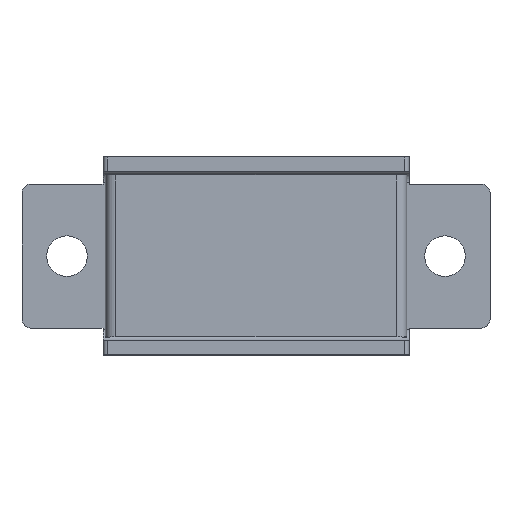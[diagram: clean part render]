
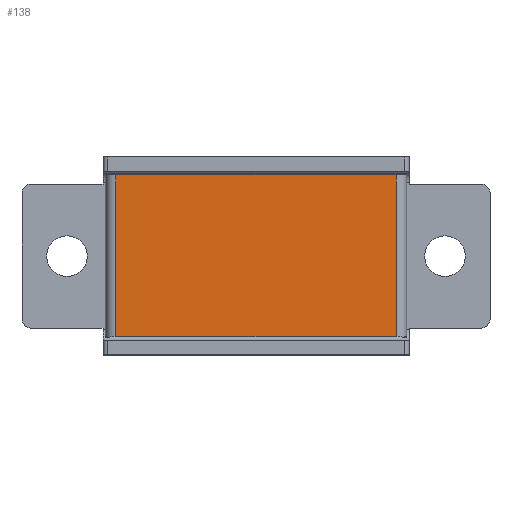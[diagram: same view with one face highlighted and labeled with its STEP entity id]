
A CAD part, top view. The second image highlights one B-rep face of the part: STEP entity #138.
In plain terms, the highlighted planar face has unit normal (0, 0, 1).
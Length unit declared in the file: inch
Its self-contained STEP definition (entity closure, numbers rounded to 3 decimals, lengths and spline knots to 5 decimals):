
#70 = EDGE_LOOP ( 'NONE', ( #1429, #403, #1967, #133 ) ) ;
#123 = CARTESIAN_POINT ( 'NONE',  ( -0.97563, 0.5625, 0.405 ) ) ;
#133 = ORIENTED_EDGE ( 'NONE', *, *, #1600, .T. ) ;
#138 = ADVANCED_FACE ( 'NONE', ( #1488 ), #1711, .T. ) ;
#189 = LINE ( 'NONE', #1174, #985 ) ;
#218 = DIRECTION ( 'NONE',  ( 0., 0., 1. ) ) ;
#243 = CARTESIAN_POINT ( 'NONE',  ( 0.97563, 0.5625, 0.405 ) ) ;
#340 = EDGE_CURVE ( 'NONE', #575, #1893, #1991, .T. ) ;
#403 = ORIENTED_EDGE ( 'NONE', *, *, #727, .T. ) ;
#513 = LINE ( 'NONE', #777, #1182 ) ;
#546 = AXIS2_PLACEMENT_3D ( 'NONE', #788, #218, #1015 ) ;
#556 = DIRECTION ( 'NONE',  ( 1., 0., 0. ) ) ;
#575 = VERTEX_POINT ( 'NONE', #703 ) ;
#579 = LINE ( 'NONE', #990, #1952 ) ;
#617 = VECTOR ( 'NONE', #1564, 39.37008 ) ;
#622 = VERTEX_POINT ( 'NONE', #123 ) ;
#634 = CARTESIAN_POINT ( 'NONE',  ( 1.01563, -0.5625, 0.405 ) ) ;
#703 = CARTESIAN_POINT ( 'NONE',  ( 0.97563, -0.5625, 0.405 ) ) ;
#727 = EDGE_CURVE ( 'NONE', #622, #1893, #513, .T. ) ;
#777 = CARTESIAN_POINT ( 'NONE',  ( -0.97563, 0.5625, 0.405 ) ) ;
#788 = CARTESIAN_POINT ( 'NONE',  ( -1.01563, 0.5625, 0.405 ) ) ;
#913 = CARTESIAN_POINT ( 'NONE',  ( -0.97563, -0.5625, 0.405 ) ) ;
#985 = VECTOR ( 'NONE', #556, 39.37008 ) ;
#990 = CARTESIAN_POINT ( 'NONE',  ( 0.97563, -0.5625, 0.405 ) ) ;
#1015 = DIRECTION ( 'NONE',  ( 1., 0., 0. ) ) ;
#1148 = VERTEX_POINT ( 'NONE', #243 ) ;
#1174 = CARTESIAN_POINT ( 'NONE',  ( 1.01563, 0.5625, 0.405 ) ) ;
#1182 = VECTOR ( 'NONE', #1221, 39.37008 ) ;
#1221 = DIRECTION ( 'NONE',  ( 0., -1., 0. ) ) ;
#1309 = DIRECTION ( 'NONE',  ( 0., 1., 0. ) ) ;
#1429 = ORIENTED_EDGE ( 'NONE', *, *, #1758, .F. ) ;
#1488 = FACE_OUTER_BOUND ( 'NONE', #70, .T. ) ;
#1564 = DIRECTION ( 'NONE',  ( -1., 0., 0. ) ) ;
#1600 = EDGE_CURVE ( 'NONE', #575, #1148, #579, .T. ) ;
#1711 = PLANE ( 'NONE',  #546 ) ;
#1758 = EDGE_CURVE ( 'NONE', #622, #1148, #189, .T. ) ;
#1893 = VERTEX_POINT ( 'NONE', #913 ) ;
#1952 = VECTOR ( 'NONE', #1309, 39.37008 ) ;
#1967 = ORIENTED_EDGE ( 'NONE', *, *, #340, .F. ) ;
#1991 = LINE ( 'NONE', #634, #617 ) ;
